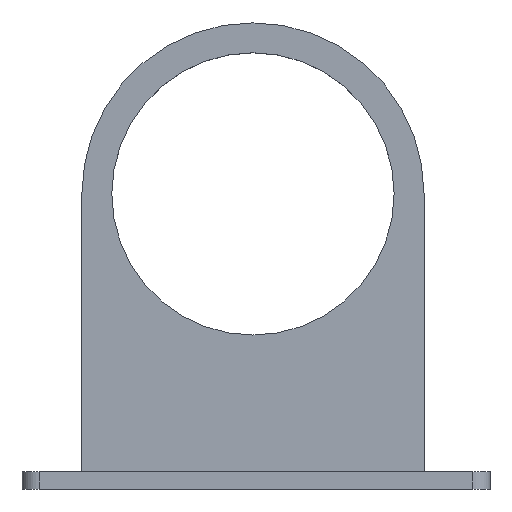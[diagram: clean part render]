
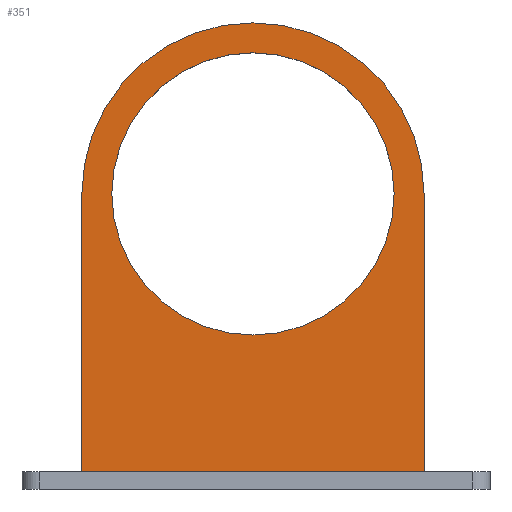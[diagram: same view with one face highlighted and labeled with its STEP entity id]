
A CAD part, top view. The second image highlights one B-rep face of the part: STEP entity #351.
In plain terms, the highlighted planar face has unit normal (0, 0, 1).
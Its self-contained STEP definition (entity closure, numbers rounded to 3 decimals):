
#20 = VERTEX_POINT ( 'NONE', #147 ) ;
#32 = CARTESIAN_POINT ( 'NONE',  ( 0., 0., 8. ) ) ;
#72 = LINE ( 'NONE', #463, #680 ) ;
#84 = ORIENTED_EDGE ( 'NONE', *, *, #546, .T. ) ;
#87 = AXIS2_PLACEMENT_3D ( 'NONE', #230, #466, #684 ) ;
#90 = EDGE_CURVE ( 'NONE', #20, #163, #376, .T. ) ;
#96 = EDGE_LOOP ( 'NONE', ( #460, #353 ) ) ;
#108 = DIRECTION ( 'NONE',  ( -1., 0., 0. ) ) ;
#131 = VECTOR ( 'NONE', #637, 1000. ) ;
#133 = ORIENTED_EDGE ( 'NONE', *, *, #701, .T. ) ;
#143 = DIRECTION ( 'NONE',  ( 0., 0., -1. ) ) ;
#147 = CARTESIAN_POINT ( 'NONE',  ( 20., -32.5, 8. ) ) ;
#163 = VERTEX_POINT ( 'NONE', #614 ) ;
#172 = ORIENTED_EDGE ( 'NONE', *, *, #633, .T. ) ;
#175 = ORIENTED_EDGE ( 'NONE', *, *, #265, .F. ) ;
#181 = CARTESIAN_POINT ( 'NONE',  ( -20., 0., 8. ) ) ;
#194 = CARTESIAN_POINT ( 'NONE',  ( 16.5, 0., 8. ) ) ;
#196 = CARTESIAN_POINT ( 'NONE',  ( 0., 0., 8. ) ) ;
#198 = CARTESIAN_POINT ( 'NONE',  ( 0., -32.5, 8. ) ) ;
#200 = CARTESIAN_POINT ( 'NONE',  ( 0., 0., 8. ) ) ;
#230 = CARTESIAN_POINT ( 'NONE',  ( 0., 0., 8. ) ) ;
#255 = AXIS2_PLACEMENT_3D ( 'NONE', #196, #143, #369 ) ;
#261 = DIRECTION ( 'NONE',  ( -1., 0., 0. ) ) ;
#262 = VERTEX_POINT ( 'NONE', #181 ) ;
#265 = EDGE_CURVE ( 'NONE', #415, #20, #72, .T. ) ;
#288 = DIRECTION ( 'NONE',  ( 0., -1., 0. ) ) ;
#342 = EDGE_CURVE ( 'NONE', #696, #410, #692, .T. ) ;
#349 = CARTESIAN_POINT ( 'NONE',  ( 0., 20., 8. ) ) ;
#351 = ADVANCED_FACE ( 'NONE', ( #482, #698 ), #487, .F. ) ;
#353 = ORIENTED_EDGE ( 'NONE', *, *, #342, .T. ) ;
#356 = AXIS2_PLACEMENT_3D ( 'NONE', #32, #654, #713 ) ;
#367 = AXIS2_PLACEMENT_3D ( 'NONE', #503, #675, #108 ) ;
#369 = DIRECTION ( 'NONE',  ( -1., 0., 0. ) ) ;
#372 = DIRECTION ( 'NONE',  ( -1., 0., 0. ) ) ;
#376 = LINE ( 'NONE', #198, #474 ) ;
#382 = ORIENTED_EDGE ( 'NONE', *, *, #90, .F. ) ;
#406 = EDGE_LOOP ( 'NONE', ( #175, #172, #133, #84, #382 ) ) ;
#410 = VERTEX_POINT ( 'NONE', #510 ) ;
#411 = LINE ( 'NONE', #625, #131 ) ;
#415 = VERTEX_POINT ( 'NONE', #459 ) ;
#418 = EDGE_CURVE ( 'NONE', #410, #696, #476, .T. ) ;
#459 = CARTESIAN_POINT ( 'NONE',  ( 20., 0., 8. ) ) ;
#460 = ORIENTED_EDGE ( 'NONE', *, *, #418, .T. ) ;
#463 = CARTESIAN_POINT ( 'NONE',  ( 20., 20., 8. ) ) ;
#466 = DIRECTION ( 'NONE',  ( 0., 0., 1. ) ) ;
#474 = VECTOR ( 'NONE', #372, 1000. ) ;
#476 = CIRCLE ( 'NONE', #367, 16.5 ) ;
#482 = FACE_BOUND ( 'NONE', #96, .T. ) ;
#487 = PLANE ( 'NONE',  #255 ) ;
#503 = CARTESIAN_POINT ( 'NONE',  ( 0., 0., 8. ) ) ;
#510 = CARTESIAN_POINT ( 'NONE',  ( -16.5, 0., 8. ) ) ;
#538 = AXIS2_PLACEMENT_3D ( 'NONE', #200, #699, #261 ) ;
#546 = EDGE_CURVE ( 'NONE', #262, #163, #411, .T. ) ;
#559 = VERTEX_POINT ( 'NONE', #349 ) ;
#599 = CIRCLE ( 'NONE', #538, 20. ) ;
#614 = CARTESIAN_POINT ( 'NONE',  ( -20., -32.5, 8. ) ) ;
#623 = CIRCLE ( 'NONE', #87, 20. ) ;
#625 = CARTESIAN_POINT ( 'NONE',  ( -20., 20., 8. ) ) ;
#633 = EDGE_CURVE ( 'NONE', #415, #559, #623, .T. ) ;
#637 = DIRECTION ( 'NONE',  ( 0., -1., 0. ) ) ;
#654 = DIRECTION ( 'NONE',  ( 0., 0., -1. ) ) ;
#675 = DIRECTION ( 'NONE',  ( 0., 0., -1. ) ) ;
#680 = VECTOR ( 'NONE', #288, 1000. ) ;
#684 = DIRECTION ( 'NONE',  ( -1., 0., 0. ) ) ;
#692 = CIRCLE ( 'NONE', #356, 16.5 ) ;
#696 = VERTEX_POINT ( 'NONE', #194 ) ;
#698 = FACE_OUTER_BOUND ( 'NONE', #406, .T. ) ;
#699 = DIRECTION ( 'NONE',  ( 0., 0., 1. ) ) ;
#701 = EDGE_CURVE ( 'NONE', #559, #262, #599, .T. ) ;
#713 = DIRECTION ( 'NONE',  ( -1., 0., 0. ) ) ;
